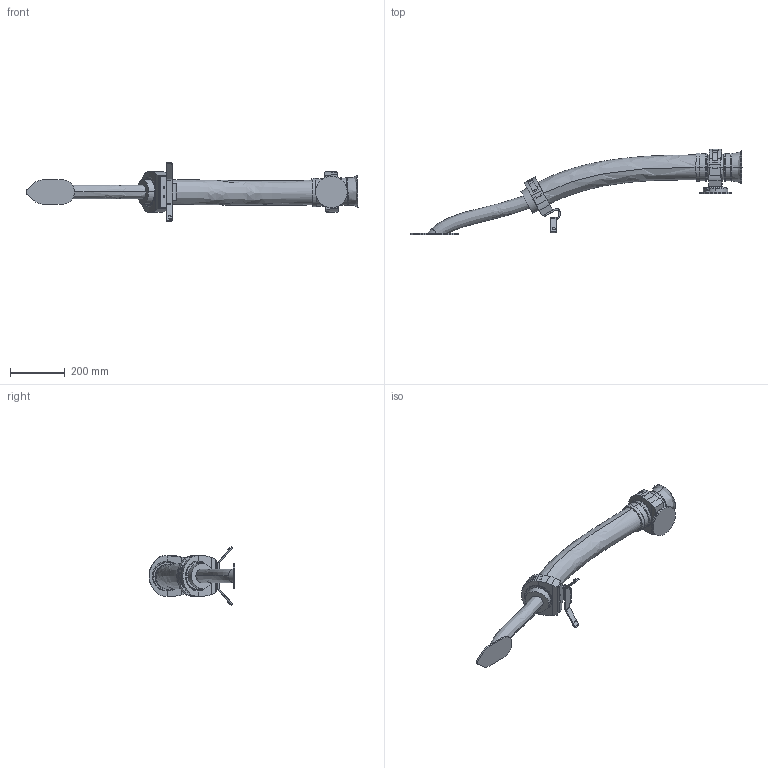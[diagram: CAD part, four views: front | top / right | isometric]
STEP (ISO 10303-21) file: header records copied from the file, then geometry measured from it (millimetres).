
FILE_DESCRIPTION (( 'STEP AP214' ), '1' );
FILE_NAME ('IRB7720-LID_All-310_OC_01_LINK04_CABLE.step', '2026-01-28T12:47:19', ( '' ), ( '' ), 'SwSTEP 2.0', 'SolidWorks 2024', '' );
FILE_SCHEMA (( 'AUTOMOTIVE_DESIGN' ));
Length unit declared in the file: millimetre
Products named in the file (1): IRB7720-LID_All-310_OC_01_LINK04_CABLE
Bounding box: 1211.8 x 313.49 x 213.34 mm (x, y, z)
Volume: 7278793.3 mm3; surface area: 465628.5 mm2
Topology: 1 solids, 2 shells, 391 faces, 981 edges, 624 vertices
Faces by surface type: plane 201, cylinder 128, sphere 24, cone 20, bspline 16, torus 2
Entity records: 21159 total; most frequent: CARTESIAN_POINT 7529, ORIENTED_EDGE 1956, DIRECTION 1947, EDGE_CURVE 978, AXIS2_PLACEMENT_3D 732, VERTEX_POINT 623, VECTOR 483, LINE 483
